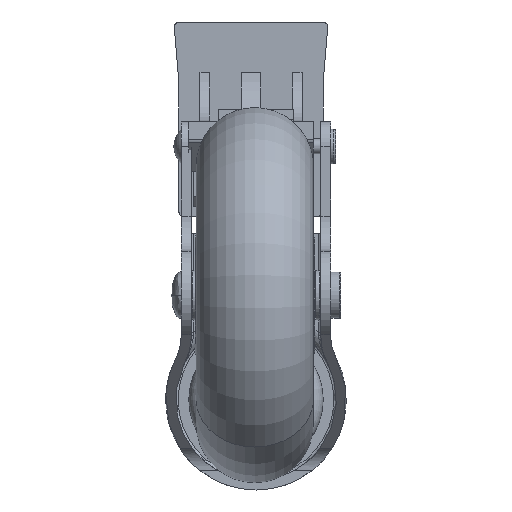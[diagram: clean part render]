
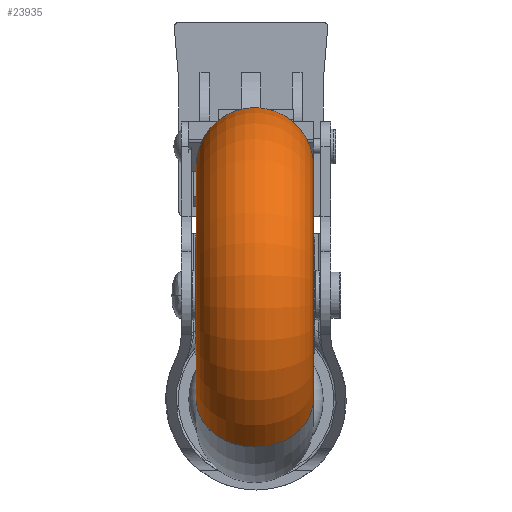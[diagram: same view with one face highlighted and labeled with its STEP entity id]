
A CAD part, front view. The second image highlights one B-rep face of the part: STEP entity #23935.
In plain terms, the highlighted toroidal (fillet/blend) face has major radius 26 mm and minor radius 11.75 mm.
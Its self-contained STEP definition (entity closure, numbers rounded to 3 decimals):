
#1672 = DIRECTION ( 'NONE',  ( -1., 0., 0. ) ) ;
#1845 = CARTESIAN_POINT ( 'NONE',  ( 11.875, 0., 0. ) ) ;
#2906 = CARTESIAN_POINT ( 'NONE',  ( -11.625, 0., 26. ) ) ;
#3587 = CARTESIAN_POINT ( 'NONE',  ( -11.625, 0., -26. ) ) ;
#4462 = CIRCLE ( 'NONE', #22981, 11.75 ) ;
#4672 = DIRECTION ( 'NONE',  ( 0., 0., -1. ) ) ;
#4892 = EDGE_CURVE ( 'NONE', #11967, #14202, #22175, .T. ) ;
#6603 = CARTESIAN_POINT ( 'NONE',  ( 0.125, 0., -26. ) ) ;
#6799 = DIRECTION ( 'NONE',  ( 0., 0., 1. ) ) ;
#7236 = ORIENTED_EDGE ( 'NONE', *, *, #15853, .F. ) ;
#8887 = DIRECTION ( 'NONE',  ( 0., 0., 1. ) ) ;
#10751 = ORIENTED_EDGE ( 'NONE', *, *, #23241, .T. ) ;
#11345 = DIRECTION ( 'NONE',  ( 0., 0., 1. ) ) ;
#11821 = AXIS2_PLACEMENT_3D ( 'NONE', #1845, #1672, #6799 ) ;
#11967 = VERTEX_POINT ( 'NONE', #23855 ) ;
#12573 = CIRCLE ( 'NONE', #29509, 26. ) ;
#13954 = CIRCLE ( 'NONE', #11821, 26. ) ;
#14202 = VERTEX_POINT ( 'NONE', #2906 ) ;
#14294 = DIRECTION ( 'NONE',  ( 0., -1., 0. ) ) ;
#15195 = CARTESIAN_POINT ( 'NONE',  ( 11.875, 0., -26. ) ) ;
#15853 = EDGE_CURVE ( 'NONE', #18790, #28357, #4462, .T. ) ;
#16155 = DIRECTION ( 'NONE',  ( -1., 0., 0. ) ) ;
#16575 = ORIENTED_EDGE ( 'NONE', *, *, #4892, .T. ) ;
#18484 = AXIS2_PLACEMENT_3D ( 'NONE', #27384, #14294, #4672 ) ;
#18790 = VERTEX_POINT ( 'NONE', #15195 ) ;
#18807 = FACE_OUTER_BOUND ( 'NONE', #29692, .T. ) ;
#18993 = CARTESIAN_POINT ( 'NONE',  ( -11.625, 0., 0. ) ) ;
#19661 = TOROIDAL_SURFACE ( 'NONE', #32337, 26., 11.75 ) ;
#22175 = CIRCLE ( 'NONE', #18484, 11.75 ) ;
#22981 = AXIS2_PLACEMENT_3D ( 'NONE', #6603, #27321, #24663 ) ;
#23241 = EDGE_CURVE ( 'NONE', #18790, #11967, #13954, .T. ) ;
#23438 = CARTESIAN_POINT ( 'NONE',  ( 0.125, 0., 0. ) ) ;
#23855 = CARTESIAN_POINT ( 'NONE',  ( 11.875, 0., 26. ) ) ;
#23935 = ADVANCED_FACE ( 'NONE', ( #18807 ), #19661, .T. ) ;
#24663 = DIRECTION ( 'NONE',  ( 0., 0., 1. ) ) ;
#26454 = DIRECTION ( 'NONE',  ( -1., 0., 0. ) ) ;
#26872 = EDGE_CURVE ( 'NONE', #28357, #14202, #12573, .T. ) ;
#27321 = DIRECTION ( 'NONE',  ( 0., 1., 0. ) ) ;
#27384 = CARTESIAN_POINT ( 'NONE',  ( 0.125, 0., 26. ) ) ;
#28197 = ORIENTED_EDGE ( 'NONE', *, *, #26872, .F. ) ;
#28357 = VERTEX_POINT ( 'NONE', #3587 ) ;
#29509 = AXIS2_PLACEMENT_3D ( 'NONE', #18993, #26454, #8887 ) ;
#29692 = EDGE_LOOP ( 'NONE', ( #7236, #10751, #16575, #28197 ) ) ;
#32337 = AXIS2_PLACEMENT_3D ( 'NONE', #23438, #16155, #11345 ) ;
